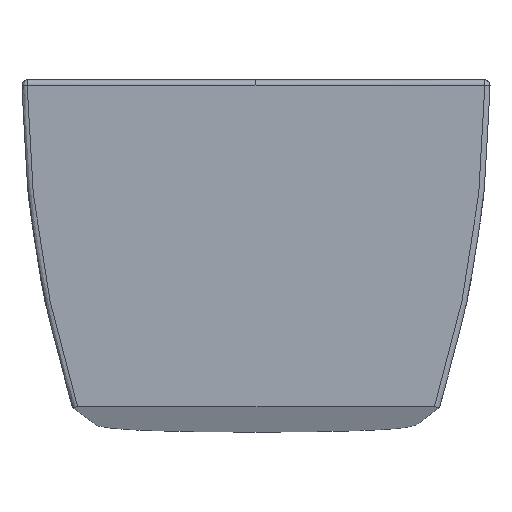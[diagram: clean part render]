
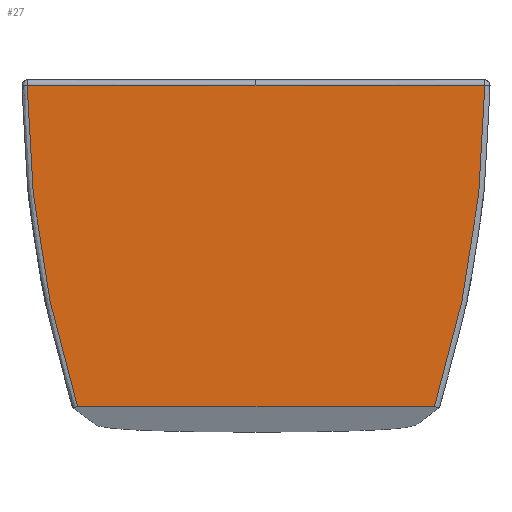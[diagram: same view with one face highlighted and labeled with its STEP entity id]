
A CAD part, left-side view. The second image highlights one B-rep face of the part: STEP entity #27.
In plain terms, the highlighted free-form (B-spline) face has degree [1, 1] with [2, 2] control points.
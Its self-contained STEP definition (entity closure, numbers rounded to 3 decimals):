
#27=ADVANCED_FACE('',(#59),#482,.T.);
#59=FACE_OUTER_BOUND('',#91,.T.);
#91=EDGE_LOOP('',(#129,#130,#131,#132,#133));
#129=ORIENTED_EDGE('',*,*,#271,.T.);
#130=ORIENTED_EDGE('',*,*,#268,.T.);
#131=ORIENTED_EDGE('',*,*,#279,.T.);
#132=ORIENTED_EDGE('',*,*,#269,.F.);
#133=ORIENTED_EDGE('',*,*,#270,.T.);
#268=EDGE_CURVE('',#420,#421,#360,.T.);
#269=EDGE_CURVE('',#438,#424,#361,.T.);
#270=EDGE_CURVE('',#438,#423,#362,.T.);
#271=EDGE_CURVE('',#423,#420,#363,.T.);
#279=EDGE_CURVE('',#421,#424,#367,.T.);
#360=(
BOUNDED_CURVE()
B_SPLINE_CURVE(2,(#5183,#5184,#5185),.UNSPECIFIED.,.F.,.F.)
B_SPLINE_CURVE_WITH_KNOTS((3,3),(6.476,280.91),
 .UNSPECIFIED.)
CURVE()
GEOMETRIC_REPRESENTATION_ITEM()
RATIONAL_B_SPLINE_CURVE((1.,1.,1.))
REPRESENTATION_ITEM('')
);
#361=(
BOUNDED_CURVE()
B_SPLINE_CURVE(2,(#5186,#5187,#5188,#5189,#5190),.UNSPECIFIED.,.F.,.F.)
B_SPLINE_CURVE_WITH_KNOTS((3,2,3),(-1995.222,-1849.434,
-1819.28),.UNSPECIFIED.)
CURVE()
GEOMETRIC_REPRESENTATION_ITEM()
RATIONAL_B_SPLINE_CURVE((1.,1.,1.,1.,1.))
REPRESENTATION_ITEM('')
);
#362=(
BOUNDED_CURVE()
B_SPLINE_CURVE(2,(#5191,#5192,#5193,#5194,#5195),.UNSPECIFIED.,.F.,.F.)
B_SPLINE_CURVE_WITH_KNOTS((3,2,3),(1995.222,2141.009,2171.163),
 .UNSPECIFIED.)
CURVE()
GEOMETRIC_REPRESENTATION_ITEM()
RATIONAL_B_SPLINE_CURVE((1.,1.,1.,1.,1.))
REPRESENTATION_ITEM('')
);
#363=(
BOUNDED_CURVE()
B_SPLINE_CURVE(2,(#5196,#5197,#5198),.UNSPECIFIED.,.F.,.F.)
B_SPLINE_CURVE_WITH_KNOTS((3,3),(0.,251.448),.UNSPECIFIED.)
CURVE()
GEOMETRIC_REPRESENTATION_ITEM()
RATIONAL_B_SPLINE_CURVE((1.,0.989,1.))
REPRESENTATION_ITEM('')
);
#367=(
BOUNDED_CURVE()
B_SPLINE_CURVE(2,(#5359,#5360,#5361),.UNSPECIFIED.,.F.,.F.)
B_SPLINE_CURVE_WITH_KNOTS((3,3),(-251.448,0.),.UNSPECIFIED.)
CURVE()
GEOMETRIC_REPRESENTATION_ITEM()
RATIONAL_B_SPLINE_CURVE((1.,0.989,1.))
REPRESENTATION_ITEM('')
);
#420=VERTEX_POINT('',#5141);
#421=VERTEX_POINT('',#5142);
#423=VERTEX_POINT('',#5144);
#424=VERTEX_POINT('',#5145);
#438=VERTEX_POINT('',#5159);
#482=B_SPLINE_SURFACE_WITH_KNOTS('',1,1,((#534,#535),(#536,#537)),
 .UNSPECIFIED.,.F.,.F.,.F.,(2,2),(2,2),(-355.401,3.519),
(-2.475,249.981),.UNSPECIFIED.);
#534=CARTESIAN_POINT('',(-775.392,-440.5,159.596));
#535=CARTESIAN_POINT('',(-775.392,-440.5,-92.861));
#536=CARTESIAN_POINT('',(-775.392,-81.58,159.596));
#537=CARTESIAN_POINT('',(-775.392,-81.58,-92.861));
#5141=CARTESIAN_POINT('',(-775.392,-123.823,-90.386));
#5142=CARTESIAN_POINT('',(-775.392,-398.257,-90.386));
#5144=CARTESIAN_POINT('',(-775.392,-85.099,157.12));
#5145=CARTESIAN_POINT('',(-775.392,-436.981,157.12));
#5159=CARTESIAN_POINT('',(-775.392,-261.04,157.12));
#5183=CARTESIAN_POINT('',(-775.392,-123.823,-90.386));
#5184=CARTESIAN_POINT('',(-775.392,-261.04,-90.386));
#5185=CARTESIAN_POINT('',(-775.392,-398.257,-90.386));
#5186=CARTESIAN_POINT('',(-775.392,-261.04,157.12));
#5187=CARTESIAN_POINT('',(-775.392,-333.933,157.12));
#5188=CARTESIAN_POINT('',(-775.392,-406.827,157.12));
#5189=CARTESIAN_POINT('',(-775.392,-421.904,157.12));
#5190=CARTESIAN_POINT('',(-775.392,-436.981,157.12));
#5191=CARTESIAN_POINT('',(-775.392,-261.04,157.12));
#5192=CARTESIAN_POINT('',(-775.392,-188.146,157.12));
#5193=CARTESIAN_POINT('',(-775.392,-115.252,157.12));
#5194=CARTESIAN_POINT('',(-775.392,-100.176,157.12));
#5195=CARTESIAN_POINT('',(-775.392,-85.099,157.12));
#5196=CARTESIAN_POINT('',(-775.392,-85.099,157.12));
#5197=CARTESIAN_POINT('',(-775.392,-85.87,30.459));
#5198=CARTESIAN_POINT('',(-775.392,-123.823,-90.386));
#5359=CARTESIAN_POINT('',(-775.392,-398.257,-90.386));
#5360=CARTESIAN_POINT('',(-775.392,-436.209,30.459));
#5361=CARTESIAN_POINT('',(-775.392,-436.981,157.12));
